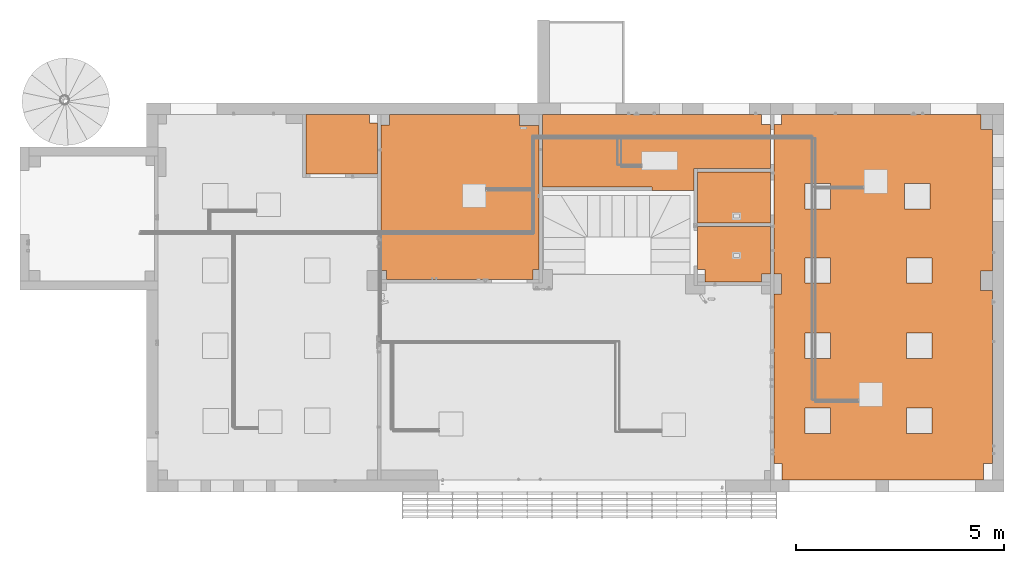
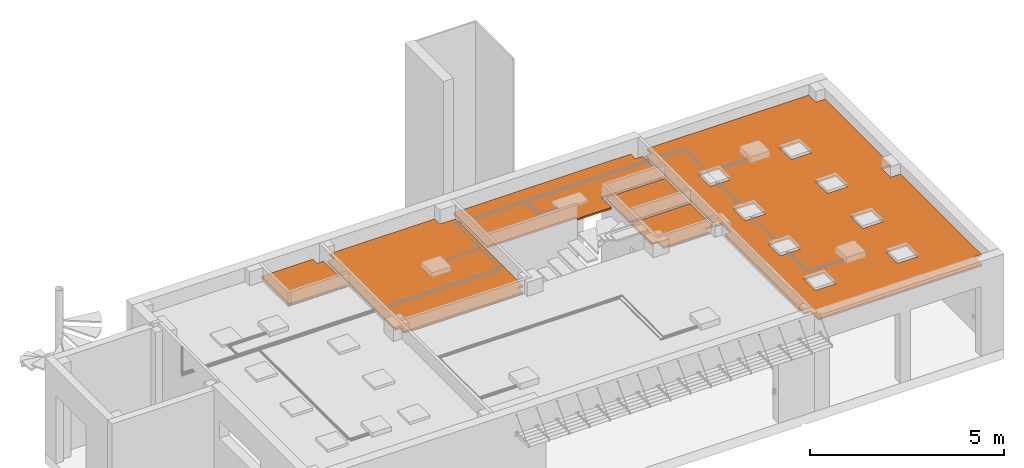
# One storey, part 19 of 24: 6 proxies.
"""IFC2X3 building model written with IfcOpenShell, lengths in millimetres."""

from ifc_helpers import new_model, entity, si_unit, converted_unit, derived_unit, direction, frame, frame_2d, origin, place, context, subcontext, project, spatial, polyline, rectangle, outline, extrude, source, transform, mapped, material, type_object, type_shapes, element, save


model = new_model("IFC2X3")

# Units and contexts
model_context = context("Model", 3, precision=0.01, world=origin(), true_north=direction((6.123031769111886e-17, 1.0)))
body_context = subcontext(model_context, "Body", "Model", "MODEL_VIEW")
ifc_project = project(units=[si_unit("LENGTHUNIT", "METRE", prefix="MILLI"), si_unit("AREAUNIT", "SQUARE_METRE"), si_unit("VOLUMEUNIT", "CUBIC_METRE"), converted_unit("PLANEANGLEUNIT", "DEGREE", entity("IfcRatioMeasure", 0.017453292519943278), si_unit("PLANEANGLEUNIT", "RADIAN"), dimensions=[0, 0, 0, 0, 0, 0, 0]), si_unit("MASSUNIT", "GRAM", prefix="KILO"), derived_unit("MASSDENSITYUNIT", [(si_unit("MASSUNIT", "GRAM", prefix="KILO"), 1), (si_unit("LENGTHUNIT", "METRE"), -3)]), derived_unit("MOMENTOFINERTIAUNIT", [(si_unit("LENGTHUNIT", "METRE"), 4)]), si_unit("TIMEUNIT", "SECOND"), si_unit("FREQUENCYUNIT", "HERTZ"), si_unit("THERMODYNAMICTEMPERATUREUNIT", "DEGREE_CELSIUS"), derived_unit("THERMALTRANSMITTANCEUNIT", [(si_unit("MASSUNIT", "GRAM", prefix="KILO"), 1), (si_unit("THERMODYNAMICTEMPERATUREUNIT", "KELVIN"), -1), (si_unit("TIMEUNIT", "SECOND"), -3)]), derived_unit("VOLUMETRICFLOWRATEUNIT", [(si_unit("LENGTHUNIT", "METRE"), 3), (si_unit("TIMEUNIT", "SECOND"), -1)]), derived_unit("MASSFLOWRATEUNIT", [(si_unit("MASSUNIT", "GRAM", prefix="KILO"), 1), (si_unit("TIMEUNIT", "SECOND"), -1)]), derived_unit("ROTATIONALFREQUENCYUNIT", [(si_unit("TIMEUNIT", "SECOND"), -1)]), si_unit("ELECTRICCURRENTUNIT", "AMPERE"), si_unit("ELECTRICVOLTAGEUNIT", "VOLT"), si_unit("POWERUNIT", "WATT"), si_unit("FORCEUNIT", "NEWTON", prefix="KILO"), si_unit("ILLUMINANCEUNIT", "LUX"), si_unit("LUMINOUSFLUXUNIT", "LUMEN"), si_unit("LUMINOUSINTENSITYUNIT", "CANDELA"), derived_unit("USERDEFINED", [(si_unit("MASSUNIT", "GRAM", prefix="KILO"), -1), (si_unit("LENGTHUNIT", "METRE"), -2), (si_unit("TIMEUNIT", "SECOND"), 3), (si_unit("LUMINOUSFLUXUNIT", "LUMEN"), 1)]), derived_unit("SOUNDPOWERUNIT", [(si_unit("MASSUNIT", "GRAM", prefix="KILO"), 1), (si_unit("LENGTHUNIT", "METRE"), 2), (si_unit("TIMEUNIT", "SECOND"), -3)]), derived_unit("SOUNDPRESSUREUNIT", [(si_unit("MASSUNIT", "GRAM", prefix="KILO"), 1), (si_unit("LENGTHUNIT", "METRE"), -1), (si_unit("TIMEUNIT", "SECOND"), -2)]), derived_unit("LINEARVELOCITYUNIT", [(si_unit("LENGTHUNIT", "METRE"), 1), (si_unit("TIMEUNIT", "SECOND"), -1)]), si_unit("PRESSUREUNIT", "PASCAL"), derived_unit("USERDEFINED", [(si_unit("LENGTHUNIT", "METRE"), -2), (si_unit("MASSUNIT", "GRAM", prefix="KILO"), 1), (si_unit("TIMEUNIT", "SECOND"), -2)]), derived_unit("LINEARFORCEUNIT", [(si_unit("MASSUNIT", "GRAM", prefix="KILO"), 1), (si_unit("LENGTHUNIT", "METRE"), 1), (si_unit("TIMEUNIT", "SECOND"), -2), (si_unit("LENGTHUNIT", "METRE"), -1)]), derived_unit("PLANARFORCEUNIT", [(si_unit("MASSUNIT", "GRAM", prefix="KILO"), 1), (si_unit("LENGTHUNIT", "METRE"), 1), (si_unit("TIMEUNIT", "SECOND"), -2), (si_unit("LENGTHUNIT", "METRE"), -2)])], contexts=[model_context])

# Site, building, storey
site_placement = place(None, origin())
site = spatial("IfcSite", under=ifc_project, at=site_placement, Name="Default", CompositionType="ELEMENT")
building_placement = place(site_placement, origin())
building = spatial("IfcBuilding", under=site, at=building_placement, CompositionType="ELEMENT")
storey_placement = place(building_placement, origin())
storey = spatial("IfcBuildingStorey", under=building, at=storey_placement, Name="Level 1", CompositionType="ELEMENT", Elevation=0.0)

# Proxies
ifc_material = material(Name="Ceiling Tile 600 x 600")
building_element_proxy_type_1 = type_object("IfcBuildingElementProxyType", Name="Compound Ceiling:My ceiling mineral fiber:My ceiling mineral fiber : Compound Ceiling:My ceiling mineral fiber", PredefinedType="NOTDEFINED", material=ifc_material)
shared_shape_1 = source(origin(), body_context, "Body", "SweptSolid", [
    extrude(outline(polyline([(-1860.0655384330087, 1762.8831645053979), (-1860.0655384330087, -1740.2869588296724), (-1650.0655384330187, -1740.2869588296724), (-1650.0655384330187, -1999.4111024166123), (1480.4344615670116, -1999.4111024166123), (1480.4344615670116, -1732.7869588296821), (1951.8276921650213, -1732.7869588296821), (1951.8276921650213, 1729.218691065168), (1802.4344615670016, 1729.218691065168), (1802.4344615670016, 1980.3831645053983), (-1724.5655384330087, 1980.3831645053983), (-1724.5655384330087, 1762.8831645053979), (-1860.0655384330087, 1762.8831645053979)])), frame((-1915.2902403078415, 3011.750410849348, 2600.0), z_axis=(0.0, 0.0, -1.0), x_axis=(1.0, 0.0, 0.0)), (0.0, 0.0, -1.0), 57.000000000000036),
])
type_shapes(building_element_proxy_type_1, [shared_shape_1])
proxy_1_placement = place(storey_placement, origin())
element("IfcBuildingElementProxy", 1, at=proxy_1_placement, inside=storey, type_object=building_element_proxy_type_1, material=ifc_material, context=body_context, shape_type="MappedRepresentation", body=[
    mapped(shared_shape_1, transform((0.0, 0.0, 0.0), scale=1.0)),
])
building_element_proxy_type_2 = type_object("IfcBuildingElementProxyType", Name="Compound Ceiling:My ceiling mineral fiber mpania:My ceiling mineral fiber mpania : Compound Ceiling:My ceiling mineral fiber mpania", PredefinedType="NOTDEFINED", material=ifc_material)
shared_shape_2 = source(origin(), body_context, "Body", "SweptSolid", [
    extrude(outline(polyline([(-1085.4667799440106, -886.9868431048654), (640.6279428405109, -886.9868431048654), (640.6279428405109, 338.93134975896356), (444.8388371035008, 338.93134975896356), (444.8388371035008, 548.0554933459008), (-1085.4667799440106, 548.0554933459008), (-1085.4667799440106, -886.9868431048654)])), frame((-4497.9837215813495, 4463.10601992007, 2600.0)), (0.0, 0.0, 1.0), 57.000000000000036),
])
type_shapes(building_element_proxy_type_2, [shared_shape_2])
proxy_2_placement = place(storey_placement, origin())
element("IfcBuildingElementProxy", 2, at=proxy_2_placement, inside=storey, type_object=building_element_proxy_type_2, material=ifc_material, context=body_context, shape_type="MappedRepresentation", body=[
    mapped(shared_shape_2, transform((0.0, 0.0, 0.0), scale=1.0)),
])
building_element_proxy_type_3 = type_object("IfcBuildingElementProxyType", Name="Compound Ceiling:My ceiling mineral fiber mpania:My ceiling mineral fiber mpania : Compound Ceiling:My ceiling mineral fiber mpania", PredefinedType="NOTDEFINED", material=ifc_material)
shared_shape_3 = source(origin(), body_context, "Body", "SweptSolid", [
    extrude(outline(polyline([(-871.1385103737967, 150.75469648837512), (-871.1385103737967, -880.3712906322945), (888.0716360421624, -880.3712906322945), (888.0716360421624, 270.7546964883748), (672.5716360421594, 270.7546964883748), (672.5716360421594, 458.86189765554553), (-689.5047617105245, 458.86189765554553), (-689.5047617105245, 150.75469648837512), (-871.1385103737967, 150.75469648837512)])), frame((4717.646157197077, 1433.2864162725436, 2600.0), z_axis=(0.0, 0.0, -1.0), x_axis=(1.0, 0.0, 0.0)), (0.0, 0.0, -1.0), 57.000000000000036),
])
type_shapes(building_element_proxy_type_3, [shared_shape_3])
proxy_3_placement = place(storey_placement, origin())
element("IfcBuildingElementProxy", 3, at=proxy_3_placement, inside=storey, type_object=building_element_proxy_type_3, material=ifc_material, context=body_context, shape_type="MappedRepresentation", body=[
    mapped(shared_shape_3, transform((0.0, 0.0, 0.0), scale=1.0)),
])
building_element_proxy_type_4 = type_object("IfcBuildingElementProxyType", Name="Compound Ceiling:My ceiling mineral fiber:My ceiling mineral fiber : Compound Ceiling:My ceiling mineral fiber", PredefinedType="NOTDEFINED", material=ifc_material)
shared_shape_4 = source(origin(), body_context, "Body", "SweptSolid", [
    extrude(outline(polyline([(-282.69905163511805, -2078.61416583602), (778.6986976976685, -2078.61416583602), (778.6986976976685, -1863.1141658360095), (1025.3228412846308, -1863.1141658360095), (1025.3228412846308, 3408.5661755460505), (-719.6612436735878, 3408.5661755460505), (-719.6612436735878, 770.5661755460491), (-801.6612436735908, 770.5661755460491), (-801.6612436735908, -237.40401942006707), (-282.69905163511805, -237.40401942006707), (-282.69905163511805, -2078.61416583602)])), frame((3527.1036274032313, 3985.8386719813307, 2600.0), z_axis=(0.0, 0.0, 1.0), x_axis=(0.0, 1.0, 0.0)), (0.0, 0.0, 1.0), 57.000000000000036),
])
type_shapes(building_element_proxy_type_4, [shared_shape_4])
proxy_4_placement = place(storey_placement, origin())
element("IfcBuildingElementProxy", 4, at=proxy_4_placement, inside=storey, type_object=building_element_proxy_type_4, material=ifc_material, context=body_context, shape_type="MappedRepresentation", body=[
    mapped(shared_shape_4, transform((0.0, 0.0, 0.0), scale=1.0)),
])
building_element_proxy_type_5 = type_object("IfcBuildingElementProxyType", Name="Compound Ceiling:My ceiling mineral fiber:My ceiling mineral fiber : Compound Ceiling:My ceiling mineral fiber", PredefinedType="NOTDEFINED", material=ifc_material)
shared_shape_5 = source(origin(), body_context, "Body", "SweptSolid", [
    extrude(rectangle(XDim=1759.0000000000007, YDim=1225.4819134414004, at=frame_2d((0.0, 2.2737367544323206e-13), x_axis=(1.0, 0.0))), frame((4726.21779323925, 3008.3986636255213, 2600.0)), (0.0, 0.0, 1.0), 57.000000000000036),
])
type_shapes(building_element_proxy_type_5, [shared_shape_5])
proxy_5_placement = place(storey_placement, origin())
element("IfcBuildingElementProxy", 5, at=proxy_5_placement, inside=storey, type_object=building_element_proxy_type_5, material=ifc_material, context=body_context, shape_type="MappedRepresentation", body=[
    mapped(shared_shape_5, transform((0.0, 0.0, 0.0), scale=1.0)),
])
building_element_proxy_type_6 = type_object("IfcBuildingElementProxyType", Name="Compound Ceiling:My ceiling mineral fiber:My ceiling mineral fiber : Compound Ceiling:My ceiling mineral fiber", PredefinedType="NOTDEFINED", material=ifc_material)
shared_shape_6 = source(origin(), body_context, "Body", "SweptSolid", [
    extrude(outline(polyline([(-3995.926301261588, -2607.8853217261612), (-393.9206513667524, -2607.8853217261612), (-393.9206513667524, -2430.3853217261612), (81.07934863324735, -2430.3853217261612), (81.07934863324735, -2607.885321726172), (4166.5736987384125, -2607.885321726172), (4166.5736987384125, -2412.885321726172), (4564.449555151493, -2412.885321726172), (4564.449555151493, 2443.31772471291), (4167.073698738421, 2443.31772471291), (4167.073698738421, 2651.736717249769), (2.0736987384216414, 2651.736717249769), (2.0736987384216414, 2361.3177247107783), (-472.92630126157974, 2361.3177247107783), (-472.92630126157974, 2651.7367172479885), (-3875.9263012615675, 2651.7367172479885), (-3875.9263012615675, 2381.3177247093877), (-4242.550444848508, 2381.3177247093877), (-4242.550444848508, -2430.3853217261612), (-3995.926301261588, -2430.3853217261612), (-3995.926301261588, -2607.8853217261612)]), holes=[polyline([(1025.4821785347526, -1251.3698568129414), (1635.0821785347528, -1251.3698568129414), (1635.0821785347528, -1860.9698568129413), (1025.4821785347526, -1860.9698568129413), (1025.4821785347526, -1251.3698568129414)]), polyline([(1025.4821785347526, 1198.6301431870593), (1635.0821785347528, 1198.6301431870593), (1635.0821785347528, 589.0301431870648), (1025.4821785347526, 589.0301431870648), (1025.4821785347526, 1198.6301431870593)]), polyline([(2825.482186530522, 1198.6301431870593), (3435.082186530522, 1198.6301431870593), (3435.082186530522, 589.0301431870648), (2825.482186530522, 589.0301431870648), (2825.482186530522, 1198.6301431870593)]), polyline([(2825.482186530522, -1251.3698568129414), (3435.082186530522, -1251.3698568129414), (3435.082186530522, -1860.9698568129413), (2825.482186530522, -1860.9698568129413), (2825.482186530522, -1251.3698568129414)]), polyline([(-2574.5178134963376, -1251.3698568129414), (-1964.9178134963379, -1251.3698568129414), (-1964.9178134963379, -1860.9698568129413), (-2574.5178134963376, -1860.9698568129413), (-2574.5178134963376, -1251.3698568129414)]), polyline([(-790.3561779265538, -1251.3698568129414), (-180.75617792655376, -1251.3698568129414), (-180.75617792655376, -1860.9698568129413), (-790.3561779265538, -1860.9698568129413), (-790.3561779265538, -1251.3698568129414)]), polyline([(-790.3561779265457, 1198.6301431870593), (-180.7561779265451, 1198.6301431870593), (-180.7561779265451, 589.0301431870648), (-790.3561779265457, 589.0301431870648), (-790.3561779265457, 1198.6301431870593)]), polyline([(-2574.5178134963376, 1148.6301431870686), (-1964.9178134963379, 1148.6301431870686), (-1964.9178134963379, 539.0301431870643), (-2574.5178134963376, 539.0301431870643), (-2574.5178134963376, 1148.6301431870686)])]), frame((8295.6031149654, 768.6110684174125, 2600.0), z_axis=(0.0, 0.0, 1.0), x_axis=(0.0, -1.0, 0.0)), (0.0, 0.0, 1.0), 57.000000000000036),
])
type_shapes(building_element_proxy_type_6, [shared_shape_6])
proxy_6_placement = place(storey_placement, origin())
element("IfcBuildingElementProxy", 6, at=proxy_6_placement, inside=storey, type_object=building_element_proxy_type_6, material=ifc_material, context=body_context, shape_type="MappedRepresentation", body=[
    mapped(shared_shape_6, transform((0.0, 0.0, 0.0), scale=1.0)),
])

save(model, "model.ifc")
